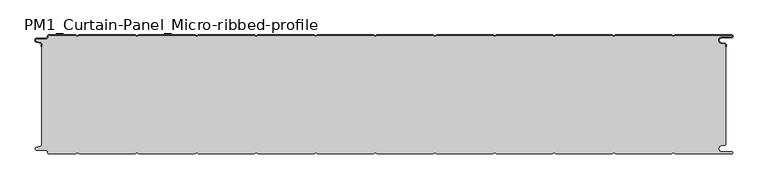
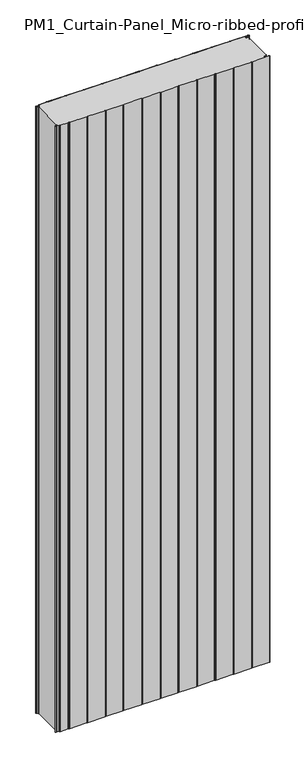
"""IFC4 building model written with IfcOpenShell, lengths in millimetres: plate geometry, PM1_Curtain-Panel_Micro-ribbed-profile : ACH_PM1_Acoustic-Sectioning-Panel_200M."""

from ifc_helpers import new_model, si_unit, point, frame, frame_2d, origin, origin_with_axes, place, context, project, spatial, polyline, circle_curve, trimmed, segment, composite_curve, outline, extrude, source, transform, mapped, element, save
from ifc_brep_helpers import plane_surface, cylinder_surface, revolved_surface, advanced_brep


def pm1_curtain_panel_micro_ribbed_profile_c7bb6b2b(model_context):
    return source(origin(), model_context, "Body", "SolidModel", [
        advanced_brep(
        [(-575.0, -15.878557, 3500.0), (-575.0, -20.0, 3500.0), (-574.2, -20.0, 3500.0), (-574.2, -15.878557, 3500.0), (-576.370137, -13.1503208, 3500.0), (-582.529863, -11.728236, 3500.0), (-581.9, -6.2, 3500.0), (-566.4, -6.2, 3500.0), (-563.6, -3.4, 3500.0), (-563.6, -2.0, 3500.0), (-562.4, -0.8, 3500.0), (-517.3143588, -0.8, 3500.0), (-514.4, -2.482606, 3500.0), (-511.4856412, -0.8, 3500.0), (-417.3143588, -0.8, 3500.0), (-414.4, -2.482606, 3500.0), (-411.4856412, -0.8, 3500.0), (-317.3143588, -0.8, 3500.0), (-314.4, -2.482606, 3500.0), (-311.4856412, -0.8, 3500.0), (-217.3143588, -0.8, 3500.0), (-214.4, -2.482606, 3500.0), (-211.4856412, -0.8, 3500.0), (-117.3143588, -0.8, 3500.0), (-114.4, -2.482606, 3500.0), (-111.4856412, -0.8, 3500.0), (-17.3143588, -0.8, 3500.0), (-14.4, -2.482606, 3500.0), (-11.4856412, -0.8, 3500.0), (82.6856412, -0.8, 3500.0), (85.6, -2.482606, 3500.0), (88.5143588, -0.8, 3500.0), (182.6856412, -0.8, 3500.0), (185.6, -2.482606, 3500.0), (188.5143588, -0.8, 3500.0), (282.6856412, -0.8, 3500.0), (285.6, -2.482606, 3500.0), (288.5143588, -0.8, 3500.0), (382.6856412, -0.8, 3500.0), (385.6, -2.482606, 3500.0), (388.5143588, -0.8, 3500.0), (482.6856412, -0.8, 3500.0), (485.6, -2.482606, 3500.0), (488.5143588, -0.8, 3500.0), (583.1, -0.8, 3500.0), (583.1, -4.2, 3500.0), (566.1, -4.2, 3500.0), (565.2664884, -13.7270771, 3500.0), (571.7125669, -14.8636953, 3500.0), (573.2, -16.6363492, 3500.0), (573.2, -20.0, 3500.0), (574.0, -20.0, 3500.0), (574.0, -16.6363492, 3500.0), (571.8514855, -14.0758491, 3500.0), (565.405407, -12.939231, 3500.0), (566.1, -5.0, 3500.0), (583.1, -5.0, 3500.0), (585.6, -2.5, 3500.0), (583.1, 0.0, 3500.0), (488.2999995, 0.0, 3500.0), (485.6, -1.5588455, 3500.0), (482.9000005, 0.0, 3500.0), (388.2999995, 0.0, 3500.0), (385.6, -1.5588455, 3500.0), (382.9000005, 0.0, 3500.0), (288.2999995, 0.0, 3500.0), (285.6, -1.5588455, 3500.0), (282.9000005, 0.0, 3500.0), (188.2999995, 0.0, 3500.0), (185.6, -1.5588455, 3500.0), (182.9000005, 0.0, 3500.0), (88.2999995, 0.0, 3500.0), (85.6, -1.5588455, 3500.0), (82.9000005, 0.0, 3500.0), (-11.7000005, 0.0, 3500.0), (-14.4, -1.5588455, 3500.0), (-17.0999995, 0.0, 3500.0), (-111.7000005, 0.0, 3500.0), (-114.4, -1.5588455, 3500.0), (-117.0999995, 0.0, 3500.0), (-211.7000005, 0.0, 3500.0), (-214.4, -1.5588455, 3500.0), (-217.0999995, 0.0, 3500.0), (-311.7000005, 0.0, 3500.0), (-314.4, -1.5588455, 3500.0), (-317.0999995, 0.0, 3500.0), (-411.7000005, 0.0, 3500.0), (-414.4, -1.5588455, 3500.0), (-417.0999995, 0.0, 3500.0), (-511.7000005, 0.0, 3500.0), (-514.4, -1.5588455, 3500.0), (-517.0999995, 0.0, 3500.0), (-562.4, 0.0, 3500.0), (-564.4, -2.0, 3500.0), (-564.4, -3.4, 3500.0), (-566.4, -5.4, 3500.0), (-581.9, -5.4, 3500.0), (-582.7098239, -12.5077322, 3500.0), (-576.5500979, -13.929817, 3500.0), (-575.0, -15.878557, 0.0), (-576.5500978, -13.9298169, 0.0), (-582.7098239, -12.507732, 0.0), (-581.9, -5.4, 0.0), (-566.4, -5.4, 0.0), (-564.4, -3.4, 0.0), (-564.4, -2.0, 0.0), (-562.4, 0.0, 0.0), (-517.0999995, 0.0, 0.0), (-514.4, -1.5588455, 0.0), (-511.7000005, 0.0, 0.0), (-417.0999995, 0.0, 0.0), (-414.4, -1.5588455, 0.0), (-411.7000005, 0.0, 0.0), (-317.0999995, 0.0, 0.0), (-314.4, -1.5588455, 0.0), (-311.7000005, 0.0, 0.0), (-217.0999995, 0.0, 0.0), (-214.4, -1.5588455, 0.0), (-211.7000005, 0.0, 0.0), (-117.0999995, 0.0, 0.0), (-114.4, -1.5588455, 0.0), (-111.7000005, 0.0, 0.0), (-17.0999995, 0.0, 0.0), (-14.4, -1.5588455, 0.0), (-11.7000005, 0.0, 0.0), (82.9000005, 0.0, 0.0), (85.6, -1.5588455, 0.0), (88.2999995, 0.0, 0.0), (182.9000005, 0.0, 0.0), (185.6, -1.5588455, 0.0), (188.2999995, 0.0, 0.0), (282.9000005, 0.0, 0.0), (285.6, -1.5588455, 0.0), (288.2999995, 0.0, 0.0), (382.9000005, 0.0, 0.0), (385.6, -1.5588455, 0.0), (388.2999995, 0.0, 0.0), (482.9000005, 0.0, 0.0), (485.6, -1.5588455, 0.0), (488.2999995, 0.0, 0.0), (583.1, 0.0, 0.0), (585.6, -2.5, 0.0), (583.1, -5.0, 0.0), (566.1, -5.0, 0.0), (565.405407, -12.939231, 0.0), (571.8514855, -14.0758491, 0.0), (574.0, -16.6363492, 0.0), (574.0, -20.0, 0.0), (573.2, -20.0, 0.0), (573.2, -16.6363492, 0.0), (571.7125669, -14.8636953, 0.0), (565.2664884, -13.7270772, 0.0), (566.1, -4.2, 0.0), (583.1, -4.2, 0.0), (583.1, -0.8, 0.0), (488.5143588, -0.8, 0.0), (485.6, -2.482606, 0.0), (482.6856412, -0.8, 0.0), (388.5143588, -0.8, 0.0), (385.6, -2.482606, 0.0), (382.6856412, -0.8, 0.0), (288.5143588, -0.8, 0.0), (285.6, -2.482606, 0.0), (282.6856412, -0.8, 0.0), (188.5143588, -0.8, 0.0), (185.6, -2.482606, 0.0), (182.6856412, -0.8, 0.0), (88.5143588, -0.8, 0.0), (85.6, -2.482606, 0.0), (82.6856412, -0.8, 0.0), (-11.4856412, -0.8, 0.0), (-14.4, -2.482606, 0.0), (-17.3143588, -0.8, 0.0), (-111.4856412, -0.8, 0.0), (-114.4, -2.482606, 0.0), (-117.3143588, -0.8, 0.0), (-211.4856412, -0.8, 0.0), (-214.4, -2.482606, 0.0), (-217.3143588, -0.8, 0.0), (-311.4856412, -0.8, 0.0), (-314.4, -2.482606, 0.0), (-317.3143588, -0.8, 0.0), (-411.4856412, -0.8, 0.0), (-414.4, -2.482606, 0.0), (-417.3143588, -0.8, 0.0), (-511.4856412, -0.8, 0.0), (-514.4, -2.482606, 0.0), (-517.3143588, -0.8, 0.0), (-562.4, -0.8, 0.0), (-563.6, -2.0, 0.0), (-563.6, -3.4, 0.0), (-566.4, -6.2, 0.0), (-581.9, -6.2, 0.0), (-582.529863, -11.7282362, 0.0), (-576.370137, -13.150321, 0.0), (-574.2, -15.878557, 0.0), (-574.2, -20.0, 0.0), (-575.0, -20.0, 0.0)],
        [
            (0, 1),
            (1, 2),
            (2, 3),
            (3, 4, circle_curve(frame((-577.0, -15.878557, 3500.0), z_axis=(0.0, 0.0, 1.0), x_axis=(1.0, 0.0, 0.0)), 2.8)),
            (4, 5),
            (5, 6, circle_curve(frame((-581.9, -9.0, 3500.0), z_axis=(0.0, 0.0, -1.0), x_axis=(1.0, 0.0, 0.0)), 2.8)),
            (6, 7),
            (7, 8, circle_curve(frame((-566.4, -3.4, 3500.0), z_axis=(0.0, 0.0, 1.0), x_axis=(1.0, 0.0, 0.0)), 2.8)),
            (8, 9),
            (9, 10, circle_curve(frame((-562.4, -2.0, 3500.0), z_axis=(0.0, 0.0, -1.0), x_axis=(1.0, 0.0, 0.0)), 1.2)),
            (10, 11),
            (11, 12),
            (12, 13),
            (13, 14),
            (14, 15),
            (15, 16),
            (16, 17),
            (17, 18),
            (18, 19),
            (19, 20),
            (20, 21),
            (21, 22),
            (22, 23),
            (23, 24),
            (24, 25),
            (25, 26),
            (26, 27),
            (27, 28),
            (28, 29),
            (29, 30),
            (30, 31),
            (31, 32),
            (32, 33),
            (33, 34),
            (34, 35),
            (35, 36),
            (36, 37),
            (37, 38),
            (38, 39),
            (39, 40),
            (40, 41),
            (41, 42),
            (42, 43),
            (43, 44),
            (44, 45, circle_curve(frame((583.1, -2.5, 3500.0), z_axis=(0.0, 0.0, -1.0), x_axis=(1.0, 0.0, 0.0)), 1.7)),
            (45, 46),
            (46, 47, circle_curve(frame((566.1, -9.0, 3500.0), z_axis=(0.0, 0.0, 1.0), x_axis=(1.0, 0.0, 0.0)), 4.8)),
            (47, 48),
            (48, 49, circle_curve(frame((571.4, -16.6363492, 3500.0), z_axis=(0.0, 0.0, -1.0), x_axis=(1.0, 0.0, 0.0)), 1.8)),
            (49, 50),
            (50, 51),
            (51, 52),
            (52, 53, circle_curve(frame((571.4, -16.6363492, 3500.0), z_axis=(0.0, 0.0, 1.0), x_axis=(1.0, 0.0, 0.0)), 2.6)),
            (53, 54),
            (54, 55, circle_curve(frame((566.1, -9.0, 3500.0), z_axis=(0.0, 0.0, -1.0), x_axis=(1.0, 0.0, 0.0)), 4.0)),
            (55, 56),
            (56, 57, circle_curve(frame((583.1, -2.5, 3500.0), z_axis=(0.0, 0.0, 1.0), x_axis=(1.0, 0.0, 0.0)), 2.5)),
            (57, 58, circle_curve(frame((583.1, -2.5, 3500.0), z_axis=(0.0, 0.0, 1.0), x_axis=(1.0, 0.0, 0.0)), 2.5)),
            (58, 59),
            (59, 60),
            (60, 61),
            (61, 62),
            (62, 63),
            (63, 64),
            (64, 65),
            (65, 66),
            (66, 67),
            (67, 68),
            (68, 69),
            (69, 70),
            (70, 71),
            (71, 72),
            (72, 73),
            (73, 74),
            (74, 75),
            (75, 76),
            (76, 77),
            (77, 78),
            (78, 79),
            (79, 80),
            (80, 81),
            (81, 82),
            (82, 83),
            (83, 84),
            (84, 85),
            (85, 86),
            (86, 87),
            (87, 88),
            (88, 89),
            (89, 90),
            (90, 91),
            (91, 92),
            (92, 93, circle_curve(frame((-562.4, -2.0, 3500.0), z_axis=(0.0, 0.0, 1.0), x_axis=(1.0, 0.0, 0.0)), 2.0)),
            (93, 94),
            (94, 95, circle_curve(frame((-566.4, -3.4, 3500.0), z_axis=(0.0, 0.0, -1.0), x_axis=(1.0, 0.0, 0.0)), 2.0)),
            (95, 96),
            (96, 97, circle_curve(frame((-581.9, -9.0, 3500.0), z_axis=(0.0, 0.0, 1.0), x_axis=(1.0, 0.0, 0.0)), 3.6)),
            (97, 98),
            (98, 0, circle_curve(frame((-577.0, -15.878557, 3500.0), z_axis=(0.0, 0.0, -1.0), x_axis=(1.0, 0.0, 0.0)), 2.0)),
            (99, 100, circle_curve(frame((-577.0, -15.878557, 0.0), z_axis=(0.0, 0.0, 1.0), x_axis=(1.0, 0.0, 0.0)), 2.0)),
            (100, 101),
            (101, 102, circle_curve(frame((-581.9, -9.0, 0.0), z_axis=(0.0, 0.0, -1.0), x_axis=(1.0, 0.0, 0.0)), 3.6)),
            (102, 103),
            (103, 104, circle_curve(frame((-566.4, -3.4, 0.0), z_axis=(0.0, 0.0, 1.0), x_axis=(1.0, 0.0, 0.0)), 2.0)),
            (104, 105),
            (105, 106, circle_curve(frame((-562.4, -2.0, 0.0), z_axis=(0.0, 0.0, -1.0), x_axis=(1.0, 0.0, 0.0)), 2.0)),
            (106, 107),
            (107, 108),
            (108, 109),
            (109, 110),
            (110, 111),
            (111, 112),
            (112, 113),
            (113, 114),
            (114, 115),
            (115, 116),
            (116, 117),
            (117, 118),
            (118, 119),
            (119, 120),
            (120, 121),
            (121, 122),
            (122, 123),
            (123, 124),
            (124, 125),
            (125, 126),
            (126, 127),
            (127, 128),
            (128, 129),
            (129, 130),
            (130, 131),
            (131, 132),
            (132, 133),
            (133, 134),
            (134, 135),
            (135, 136),
            (136, 137),
            (137, 138),
            (138, 139),
            (139, 140),
            (140, 141, circle_curve(frame((583.1, -2.5, 0.0), z_axis=(0.0, 0.0, -1.0), x_axis=(1.0, 0.0, 0.0)), 2.5)),
            (141, 142, circle_curve(frame((583.1, -2.5, 0.0), z_axis=(0.0, 0.0, -1.0), x_axis=(1.0, 0.0, 0.0)), 2.5)),
            (142, 143),
            (143, 144, circle_curve(frame((566.1, -9.0, 0.0), z_axis=(0.0, 0.0, 1.0), x_axis=(1.0, 0.0, 0.0)), 4.0)),
            (144, 145),
            (145, 146, circle_curve(frame((571.4, -16.6363492, 0.0), z_axis=(0.0, 0.0, -1.0), x_axis=(1.0, 0.0, 0.0)), 2.6)),
            (146, 147),
            (147, 148),
            (148, 149),
            (149, 150, circle_curve(frame((571.4, -16.6363492, 0.0), z_axis=(0.0, 0.0, 1.0), x_axis=(1.0, 0.0, 0.0)), 1.8)),
            (150, 151),
            (151, 152, circle_curve(frame((566.1, -9.0, 0.0), z_axis=(0.0, 0.0, -1.0), x_axis=(1.0, 0.0, 0.0)), 4.8)),
            (152, 153),
            (153, 154, circle_curve(frame((583.1, -2.5, 0.0), z_axis=(0.0, 0.0, 1.0), x_axis=(1.0, 0.0, 0.0)), 1.7)),
            (154, 155),
            (155, 156),
            (156, 157),
            (157, 158),
            (158, 159),
            (159, 160),
            (160, 161),
            (161, 162),
            (162, 163),
            (163, 164),
            (164, 165),
            (165, 166),
            (166, 167),
            (167, 168),
            (168, 169),
            (169, 170),
            (170, 171),
            (171, 172),
            (172, 173),
            (173, 174),
            (174, 175),
            (175, 176),
            (176, 177),
            (177, 178),
            (178, 179),
            (179, 180),
            (180, 181),
            (181, 182),
            (182, 183),
            (183, 184),
            (184, 185),
            (185, 186),
            (186, 187),
            (187, 188),
            (188, 189, circle_curve(frame((-562.4, -2.0, 0.0), z_axis=(0.0, 0.0, 1.0), x_axis=(1.0, 0.0, 0.0)), 1.2)),
            (189, 190),
            (190, 191, circle_curve(frame((-566.4, -3.4, 0.0), z_axis=(0.0, 0.0, -1.0), x_axis=(1.0, 0.0, 0.0)), 2.8)),
            (191, 192),
            (192, 193, circle_curve(frame((-581.9, -9.0, 0.0), z_axis=(0.0, 0.0, 1.0), x_axis=(1.0, 0.0, 0.0)), 2.8)),
            (193, 194),
            (194, 195, circle_curve(frame((-577.0, -15.878557, 0.0), z_axis=(0.0, 0.0, -1.0), x_axis=(1.0, 0.0, 0.0)), 2.8)),
            (195, 196),
            (196, 197),
            (197, 99),
            (0, 99),
            (197, 1),
            (196, 2),
            (195, 3),
            (194, 4),
            (193, 5),
            (192, 6),
            (191, 7),
            (190, 8),
            (189, 9),
            (188, 10),
            (187, 11),
            (186, 12),
            (185, 13),
            (184, 14),
            (183, 15),
            (182, 16),
            (181, 17),
            (180, 18),
            (179, 19),
            (178, 20),
            (177, 21),
            (176, 22),
            (175, 23),
            (174, 24),
            (173, 25),
            (172, 26),
            (171, 27),
            (170, 28),
            (169, 29),
            (168, 30),
            (167, 31),
            (166, 32),
            (165, 33),
            (164, 34),
            (163, 35),
            (162, 36),
            (161, 37),
            (160, 38),
            (159, 39),
            (158, 40),
            (157, 41),
            (156, 42),
            (155, 43),
            (154, 44),
            (153, 45),
            (152, 46),
            (151, 47),
            (150, 48),
            (149, 49),
            (148, 50),
            (147, 51),
            (146, 52),
            (145, 53),
            (144, 54),
            (143, 55),
            (142, 56),
            (140, 58),
            (139, 59),
            (138, 60),
            (137, 61),
            (136, 62),
            (135, 63),
            (134, 64),
            (133, 65),
            (132, 66),
            (131, 67),
            (130, 68),
            (129, 69),
            (128, 70),
            (127, 71),
            (126, 72),
            (125, 73),
            (124, 74),
            (123, 75),
            (122, 76),
            (121, 77),
            (120, 78),
            (119, 79),
            (118, 80),
            (117, 81),
            (116, 82),
            (115, 83),
            (114, 84),
            (113, 85),
            (112, 86),
            (111, 87),
            (110, 88),
            (109, 89),
            (108, 90),
            (107, 91),
            (106, 92),
            (105, 93),
            (104, 94),
            (103, 95),
            (102, 96),
            (101, 97),
            (100, 98),
        ],
        [
            plane_surface(frame((-575.0, 0.0, 3500.0), z_axis=(0.0, 0.0, 1.0), x_axis=(0.0, 1.0, 0.0))),
            plane_surface(frame((-575.0, 0.0, 0.0), z_axis=(0.0, 0.0, -1.0), x_axis=(0.0, 1.0, 0.0))),
            plane_surface(frame((-575.0, -15.878557, 3500.0), z_axis=(-1.0, 0.0, 0.0), x_axis=(0.0, 0.0, -1.0))),
            plane_surface(frame((-575.0, -20.0, 3500.0), z_axis=(0.0, -1.0, 0.0), x_axis=(0.0, 0.0, -1.0))),
            plane_surface(frame((-574.2, -20.0, 3500.0), z_axis=(1.0, 0.0, 0.0), x_axis=(0.0, 0.0, -1.0))),
            cylinder_surface(frame((-577.0, -15.878557, 3500.0), z_axis=(0.0, 0.0, 1.0), x_axis=(1.0, 0.0, 0.0)), 2.8),
            plane_surface(frame((-576.370137, -13.150321, 3500.0), z_axis=(0.22495108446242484, 0.9743700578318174, 0.0), x_axis=(0.0, 0.0, -1.0))),
            revolved_surface(polyline([(-579.1, -9.0, 0.0), (-579.1, -9.0, 3500.0)]), (-581.9, -9.0, 3500.0), (0.0, 0.0, -1.0)),
            plane_surface(frame((-581.9, -6.2, 3500.0), z_axis=(0.0, -1.0, 0.0), x_axis=(0.0, 0.0, -1.0))),
            cylinder_surface(frame((-566.4, -3.4, 3500.0), z_axis=(0.0, 0.0, 1.0), x_axis=(1.0, 0.0, 0.0)), 2.8),
            plane_surface(frame((-563.6, -3.4, 3500.0), z_axis=(1.0, 0.0, 0.0), x_axis=(0.0, 0.0, -1.0))),
            revolved_surface(polyline([(-561.1999999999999, -2.0, 0.0), (-561.1999999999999, -2.0, 3500.0)]), (-562.4, -2.0, 3500.0), (0.0, 0.0, -1.0)),
            plane_surface(frame((-562.4, -0.8, 3500.0), z_axis=(0.0, -1.0, 0.0), x_axis=(0.0, 0.0, -1.0))),
            plane_surface(frame((-517.3143588, -0.8, 3500.0), z_axis=(-0.5000000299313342, -0.8660253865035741, 0.0), x_axis=(0.0, 0.0, -1.0))),
            plane_surface(frame((-514.4, -2.482606, 3500.0), z_axis=(0.5000000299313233, -0.8660253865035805, 0.0), x_axis=(0.0, 0.0, -1.0))),
            plane_surface(frame((-511.4856412, -0.8, 3500.0), z_axis=(0.0, -1.0, 0.0), x_axis=(0.0, 0.0, -1.0))),
            plane_surface(frame((-417.3143588, -0.8, 3500.0), z_axis=(-0.5000000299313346, -0.8660253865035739, 0.0), x_axis=(0.0, 0.0, -1.0))),
            plane_surface(frame((-414.4, -2.482606, 3500.0), z_axis=(0.5000000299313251, -0.8660253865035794, 0.0), x_axis=(0.0, 0.0, -1.0))),
            plane_surface(frame((-411.4856412, -0.8, 3500.0), z_axis=(0.0, -1.0, 0.0), x_axis=(0.0, 0.0, -1.0))),
            plane_surface(frame((-317.3143588, -0.8, 3500.0), z_axis=(-0.5000000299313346, -0.866025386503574, 0.0), x_axis=(0.0, 0.0, -1.0))),
            plane_surface(frame((-314.4, -2.482606, 3500.0), z_axis=(0.5000000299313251, -0.8660253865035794, 0.0), x_axis=(0.0, 0.0, -1.0))),
            plane_surface(frame((-311.4856412, -0.8, 3500.0), z_axis=(0.0, -1.0, 0.0), x_axis=(0.0, 0.0, -1.0))),
            plane_surface(frame((-217.3143588, -0.8, 3500.0), z_axis=(-0.5000000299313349, -0.8660253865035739, 0.0), x_axis=(0.0, 0.0, -1.0))),
            plane_surface(frame((-214.4, -2.482606, 3500.0), z_axis=(0.5000000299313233, -0.8660253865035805, 0.0), x_axis=(0.0, 0.0, -1.0))),
            plane_surface(frame((-211.4856412, -0.8, 3500.0), z_axis=(0.0, -1.0, 0.0), x_axis=(0.0, 0.0, -1.0))),
            plane_surface(frame((-117.3143588, -0.8, 3500.0), z_axis=(-0.5000000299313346, -0.866025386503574, 0.0), x_axis=(0.0, 0.0, -1.0))),
            plane_surface(frame((-114.4, -2.482606, 3500.0), z_axis=(0.5000000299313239, -0.8660253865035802, 0.0), x_axis=(0.0, 0.0, -1.0))),
            plane_surface(frame((-111.4856412, -0.8, 3500.0), z_axis=(0.0, -1.0, 0.0), x_axis=(0.0, 0.0, -1.0))),
            plane_surface(frame((-17.3143588, -0.8, 3500.0), z_axis=(-0.5000000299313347, -0.8660253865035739, 0.0), x_axis=(0.0, 0.0, -1.0))),
            plane_surface(frame((-14.4, -2.482606, 3500.0), z_axis=(0.5000000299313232, -0.8660253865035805, 0.0), x_axis=(0.0, 0.0, -1.0))),
            plane_surface(frame((-11.4856412, -0.8, 3500.0), z_axis=(0.0, -1.0, 0.0), x_axis=(0.0, 0.0, -1.0))),
            plane_surface(frame((82.6856412, -0.8, 3500.0), z_axis=(-0.5000000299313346, -0.866025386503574, 0.0), x_axis=(0.0, 0.0, -1.0))),
            plane_surface(frame((85.6, -2.482606, 3500.0), z_axis=(0.5000000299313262, -0.8660253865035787, 0.0), x_axis=(0.0, 0.0, -1.0))),
            plane_surface(frame((88.5143588, -0.8, 3500.0), z_axis=(0.0, -1.0, 0.0), x_axis=(0.0, 0.0, -1.0))),
            plane_surface(frame((182.6856412, -0.8, 3500.0), z_axis=(-0.5000000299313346, -0.8660253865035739, 0.0), x_axis=(0.0, 0.0, -1.0))),
            plane_surface(frame((185.6, -2.482606, 3500.0), z_axis=(0.5000000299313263, -0.8660253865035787, 0.0), x_axis=(0.0, 0.0, -1.0))),
            plane_surface(frame((188.5143588, -0.8, 3500.0), z_axis=(0.0, -1.0, 0.0), x_axis=(0.0, 0.0, -1.0))),
            plane_surface(frame((282.6856412, -0.8, 3500.0), z_axis=(-0.5000000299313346, -0.8660253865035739, 0.0), x_axis=(0.0, 0.0, -1.0))),
            plane_surface(frame((285.6, -2.482606, 3500.0), z_axis=(0.5000000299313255, -0.8660253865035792, 0.0), x_axis=(0.0, 0.0, -1.0))),
            plane_surface(frame((288.5143588, -0.8, 3500.0), z_axis=(0.0, -1.0, 0.0), x_axis=(0.0, 0.0, -1.0))),
            plane_surface(frame((382.6856412, -0.8, 3500.0), z_axis=(-0.5000000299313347, -0.8660253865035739, 0.0), x_axis=(0.0, 0.0, -1.0))),
            plane_surface(frame((385.6, -2.482606, 3500.0), z_axis=(0.5000000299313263, -0.8660253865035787, 0.0), x_axis=(0.0, 0.0, -1.0))),
            plane_surface(frame((388.5143588, -0.8, 3500.0), z_axis=(0.0, -1.0, 0.0), x_axis=(0.0, 0.0, -1.0))),
            plane_surface(frame((482.6856412, -0.8, 3500.0), z_axis=(-0.5000000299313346, -0.866025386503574, 0.0), x_axis=(0.0, 0.0, -1.0))),
            plane_surface(frame((485.6, -2.482606, 3500.0), z_axis=(0.5000000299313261, -0.8660253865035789, 0.0), x_axis=(0.0, 0.0, -1.0))),
            plane_surface(frame((535.6, -0.8, 3500.0), z_axis=(0.0, -1.0, 0.0), x_axis=(0.0, 0.0, -1.0))),
            revolved_surface(polyline([(584.8000000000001, -2.5, 0.0), (584.8000000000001, -2.5, 3500.0)]), (583.1, -2.5, 3500.0), (0.0, 0.0, -1.0)),
            plane_surface(frame((583.1, -4.2, 3500.0), z_axis=(0.0, 1.0, 0.0), x_axis=(0.0, 0.0, -1.0))),
            cylinder_surface(frame((566.1, -9.0, 3500.0), z_axis=(0.0, 0.0, 1.0), x_axis=(1.0, 0.0, 0.0)), 4.8),
            plane_surface(frame((565.2664884, -13.7270772, 3500.0), z_axis=(-0.17364825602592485, -0.9848077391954, 0.0), x_axis=(0.0, 0.0, -1.0))),
            revolved_surface(polyline([(573.1999999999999, -16.6363492, 0.0), (573.1999999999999, -16.6363492, 3500.0)]), (571.4, -16.6363492, 3500.0), (0.0, 0.0, -1.0)),
            plane_surface(frame((573.2, -16.6363492, 3500.0), z_axis=(-1.0, 0.0, 0.0), x_axis=(0.0, 0.0, -1.0))),
            plane_surface(frame((573.2, -20.0, 3500.0), z_axis=(0.0, -1.0, 0.0), x_axis=(0.0, 0.0, -1.0))),
            plane_surface(frame((574.0, -20.0, 3500.0), z_axis=(1.0, 0.0, 0.0), x_axis=(0.0, 0.0, -1.0))),
            cylinder_surface(frame((571.4, -16.6363492, 3500.0), z_axis=(0.0, 0.0, 1.0), x_axis=(1.0, 0.0, 0.0)), 2.6),
            plane_surface(frame((571.8514855, -14.0758491, 3500.0), z_axis=(0.1736482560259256, 0.9848077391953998, 0.0), x_axis=(0.0, 0.0, -1.0))),
            revolved_surface(polyline([(570.1, -9.0, 0.0), (570.1, -9.0, 3500.0)]), (566.1, -9.0, 3500.0), (0.0, 0.0, -1.0)),
            plane_surface(frame((566.1, -5.0, 3500.0), z_axis=(0.0, -1.0, 0.0), x_axis=(0.0, 0.0, -1.0))),
            cylinder_surface(frame((583.1, -2.5, 3500.0), z_axis=(0.0, 0.0, 1.0), x_axis=(1.0, 0.0, 0.0)), 2.5),
            plane_surface(frame((535.6, 0.0, 3500.0), z_axis=(0.0, 1.0, 0.0), x_axis=(0.0, 0.0, -1.0))),
            plane_surface(frame((488.2999995, 0.0, 3500.0), z_axis=(-0.5000000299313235, 0.8660253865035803, 0.0), x_axis=(0.0, 0.0, -1.0))),
            plane_surface(frame((485.6, -1.5588455, 3500.0), z_axis=(0.5000000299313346, 0.8660253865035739, 0.0), x_axis=(0.0, 0.0, -1.0))),
            plane_surface(frame((482.9000005, 0.0, 3500.0), z_axis=(0.0, 1.0, 0.0), x_axis=(0.0, 0.0, -1.0))),
            plane_surface(frame((388.2999995, 0.0, 3500.0), z_axis=(-0.5000000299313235, 0.8660253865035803, 0.0), x_axis=(0.0, 0.0, -1.0))),
            plane_surface(frame((385.6, -1.5588455, 3500.0), z_axis=(0.5000000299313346, 0.8660253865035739, 0.0), x_axis=(0.0, 0.0, -1.0))),
            plane_surface(frame((382.9000005, 0.0, 3500.0), z_axis=(0.0, 1.0, 0.0), x_axis=(0.0, 0.0, -1.0))),
            plane_surface(frame((288.2999995, 0.0, 3500.0), z_axis=(-0.5000000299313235, 0.8660253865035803, 0.0), x_axis=(0.0, 0.0, -1.0))),
            plane_surface(frame((285.6, -1.5588455, 3500.0), z_axis=(0.5000000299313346, 0.8660253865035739, 0.0), x_axis=(0.0, 0.0, -1.0))),
            plane_surface(frame((282.9000005, 0.0, 3500.0), z_axis=(0.0, 1.0, 0.0), x_axis=(0.0, 0.0, -1.0))),
            plane_surface(frame((188.2999995, 0.0, 3500.0), z_axis=(-0.5000000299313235, 0.8660253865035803, 0.0), x_axis=(0.0, 0.0, -1.0))),
            plane_surface(frame((185.6, -1.5588455, 3500.0), z_axis=(0.5000000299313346, 0.8660253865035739, 0.0), x_axis=(0.0, 0.0, -1.0))),
            plane_surface(frame((182.9000005, 0.0, 3500.0), z_axis=(0.0, 1.0, 0.0), x_axis=(0.0, 0.0, -1.0))),
            plane_surface(frame((88.2999995, 0.0, 3500.0), z_axis=(-0.5000000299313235, 0.8660253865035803, 0.0), x_axis=(0.0, 0.0, -1.0))),
            plane_surface(frame((85.6, -1.5588455, 3500.0), z_axis=(0.5000000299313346, 0.8660253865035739, 0.0), x_axis=(0.0, 0.0, -1.0))),
            plane_surface(frame((82.9000005, 0.0, 3500.0), z_axis=(0.0, 1.0, 0.0), x_axis=(0.0, 0.0, -1.0))),
            plane_surface(frame((-11.7000005, 0.0, 3500.0), z_axis=(-0.5000000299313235, 0.8660253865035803, 0.0), x_axis=(0.0, 0.0, -1.0))),
            plane_surface(frame((-14.4, -1.5588455, 3500.0), z_axis=(0.5000000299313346, 0.8660253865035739, 0.0), x_axis=(0.0, 0.0, -1.0))),
            plane_surface(frame((-17.0999995, 0.0, 3500.0), z_axis=(0.0, 1.0, 0.0), x_axis=(0.0, 0.0, -1.0))),
            plane_surface(frame((-111.7000005, 0.0, 3500.0), z_axis=(-0.5000000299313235, 0.8660253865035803, 0.0), x_axis=(0.0, 0.0, -1.0))),
            plane_surface(frame((-114.4, -1.5588455, 3500.0), z_axis=(0.5000000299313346, 0.8660253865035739, 0.0), x_axis=(0.0, 0.0, -1.0))),
            plane_surface(frame((-117.0999995, 0.0, 3500.0), z_axis=(0.0, 1.0, 0.0), x_axis=(0.0, 0.0, -1.0))),
            plane_surface(frame((-211.7000005, 0.0, 3500.0), z_axis=(-0.5000000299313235, 0.8660253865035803, 0.0), x_axis=(0.0, 0.0, -1.0))),
            plane_surface(frame((-214.4, -1.5588455, 3500.0), z_axis=(0.5000000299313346, 0.8660253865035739, 0.0), x_axis=(0.0, 0.0, -1.0))),
            plane_surface(frame((-217.0999995, 0.0, 3500.0), z_axis=(0.0, 1.0, 0.0), x_axis=(0.0, 0.0, -1.0))),
            plane_surface(frame((-311.7000005, 0.0, 3500.0), z_axis=(-0.5000000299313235, 0.8660253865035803, 0.0), x_axis=(0.0, 0.0, -1.0))),
            plane_surface(frame((-314.4, -1.5588455, 3500.0), z_axis=(0.5000000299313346, 0.8660253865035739, 0.0), x_axis=(0.0, 0.0, -1.0))),
            plane_surface(frame((-317.0999995, 0.0, 3500.0), z_axis=(0.0, 1.0, 0.0), x_axis=(0.0, 0.0, -1.0))),
            plane_surface(frame((-411.7000005, 0.0, 3500.0), z_axis=(-0.5000000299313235, 0.8660253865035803, 0.0), x_axis=(0.0, 0.0, -1.0))),
            plane_surface(frame((-414.4, -1.5588455, 3500.0), z_axis=(0.5000000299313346, 0.8660253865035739, 0.0), x_axis=(0.0, 0.0, -1.0))),
            plane_surface(frame((-417.0999995, 0.0, 3500.0), z_axis=(0.0, 1.0, 0.0), x_axis=(0.0, 0.0, -1.0))),
            plane_surface(frame((-511.7000005, 0.0, 3500.0), z_axis=(-0.5000000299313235, 0.8660253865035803, 0.0), x_axis=(0.0, 0.0, -1.0))),
            plane_surface(frame((-514.4, -1.5588455, 3500.0), z_axis=(0.5000000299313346, 0.8660253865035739, 0.0), x_axis=(0.0, 0.0, -1.0))),
            plane_surface(frame((-517.0999995, 0.0, 3500.0), z_axis=(0.0, 1.0, 0.0), x_axis=(0.0, 0.0, -1.0))),
            cylinder_surface(frame((-562.4, -2.0, 3500.0), z_axis=(0.0, 0.0, 1.0), x_axis=(1.0, 0.0, 0.0)), 2.0),
            plane_surface(frame((-564.4, -2.0, 3500.0), z_axis=(-1.0, 0.0, 0.0), x_axis=(0.0, 0.0, -1.0))),
            revolved_surface(polyline([(-564.4, -3.4, 0.0), (-564.4, -3.4, 3500.0)]), (-566.4, -3.4, 3500.0), (0.0, 0.0, -1.0)),
            plane_surface(frame((-566.4, -5.4, 3500.0), z_axis=(0.0, 1.0, 0.0), x_axis=(0.0, 0.0, -1.0))),
            cylinder_surface(frame((-581.9, -9.0, 3500.0), z_axis=(0.0, 0.0, 1.0), x_axis=(1.0, 0.0, 0.0)), 3.6),
            plane_surface(frame((-582.7098239, -12.507732, 3500.0), z_axis=(-0.22495108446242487, -0.9743700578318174, 0.0), x_axis=(0.0, 0.0, -1.0))),
            revolved_surface(polyline([(-575.0, -15.878557, 0.0), (-575.0, -15.878557, 3500.0)]), (-577.0, -15.878557, 3500.0), (0.0, 0.0, -1.0)),
        ],
        [
            (0, [[1, 2, 3, 4, 5, 6, 7, 8, 9, 10, 11, 12, 13, 14, 15, 16, 17, 18, 19, 20, 21, 22, 23, 24, 25, 26, 27, 28, 29, 30, 31, 32, 33, 34, 35, 36, 37, 38, 39, 40, 41, 42, 43, 44, 45, 46, 47, 48, 49, 50, 51, 52, 53, 54, 55, 56, 57, 58, 59, 60, 61, 62, 63, 64, 65, 66, 67, 68, 69, 70, 71, 72, 73, 74, 75, 76, 77, 78, 79, 80, 81, 82, 83, 84, 85, 86, 87, 88, 89, 90, 91, 92, 93, 94, 95, 96, 97, 98, 99]]),
            (1, [[100, 101, 102, 103, 104, 105, 106, 107, 108, 109, 110, 111, 112, 113, 114, 115, 116, 117, 118, 119, 120, 121, 122, 123, 124, 125, 126, 127, 128, 129, 130, 131, 132, 133, 134, 135, 136, 137, 138, 139, 140, 141, 142, 143, 144, 145, 146, 147, 148, 149, 150, 151, 152, 153, 154, 155, 156, 157, 158, 159, 160, 161, 162, 163, 164, 165, 166, 167, 168, 169, 170, 171, 172, 173, 174, 175, 176, 177, 178, 179, 180, 181, 182, 183, 184, 185, 186, 187, 188, 189, 190, 191, 192, 193, 194, 195, 196, 197, 198]]),
            (2, [[-1, 199, -198, 200]]),
            (3, [[-2, -200, -197, 201]]),
            (4, [[-3, -201, -196, 202]]),
            (5, [[-4, -202, -195, 203]]),
            (6, [[-5, -203, -194, 204]]),
            (7, [[-6, -204, -193, 205]]),
            (8, [[-7, -205, -192, 206]]),
            (9, [[-8, -206, -191, 207]]),
            (10, [[-9, -207, -190, 208]]),
            (11, [[-10, -208, -189, 209]]),
            (12, [[-11, -209, -188, 210]]),
            (13, [[-12, -210, -187, 211]]),
            (14, [[-13, -211, -186, 212]]),
            (15, [[-14, -212, -185, 213]]),
            (16, [[-15, -213, -184, 214]]),
            (17, [[-16, -214, -183, 215]]),
            (18, [[-17, -215, -182, 216]]),
            (19, [[-18, -216, -181, 217]]),
            (20, [[-19, -217, -180, 218]]),
            (21, [[-20, -218, -179, 219]]),
            (22, [[-21, -219, -178, 220]]),
            (23, [[-22, -220, -177, 221]]),
            (24, [[-23, -221, -176, 222]]),
            (25, [[-24, -222, -175, 223]]),
            (26, [[-25, -223, -174, 224]]),
            (27, [[-26, -224, -173, 225]]),
            (28, [[-27, -225, -172, 226]]),
            (29, [[-28, -226, -171, 227]]),
            (30, [[-29, -227, -170, 228]]),
            (31, [[-30, -228, -169, 229]]),
            (32, [[-31, -229, -168, 230]]),
            (33, [[-32, -230, -167, 231]]),
            (34, [[-33, -231, -166, 232]]),
            (35, [[-34, -232, -165, 233]]),
            (36, [[-35, -233, -164, 234]]),
            (37, [[-36, -234, -163, 235]]),
            (38, [[-37, -235, -162, 236]]),
            (39, [[-38, -236, -161, 237]]),
            (40, [[-39, -237, -160, 238]]),
            (41, [[-40, -238, -159, 239]]),
            (42, [[-41, -239, -158, 240]]),
            (43, [[-42, -240, -157, 241]]),
            (44, [[-43, -241, -156, 242]]),
            (45, [[-44, -242, -155, 243]]),
            (46, [[-45, -243, -154, 244]]),
            (47, [[-46, -244, -153, 245]]),
            (48, [[-47, -245, -152, 246]]),
            (49, [[-48, -246, -151, 247]]),
            (50, [[-49, -247, -150, 248]]),
            (51, [[-50, -248, -149, 249]]),
            (52, [[-51, -249, -148, 250]]),
            (53, [[-52, -250, -147, 251]]),
            (54, [[-53, -251, -146, 252]]),
            (55, [[-54, -252, -145, 253]]),
            (56, [[-55, -253, -144, 254]]),
            (57, [[-56, -254, -143, 255]]),
            (58, [[-255, -142, -141, 256, -58, -57]]),
            (59, [[-59, -256, -140, 257]]),
            (60, [[-60, -257, -139, 258]]),
            (61, [[-61, -258, -138, 259]]),
            (62, [[-62, -259, -137, 260]]),
            (63, [[-63, -260, -136, 261]]),
            (64, [[-64, -261, -135, 262]]),
            (65, [[-65, -262, -134, 263]]),
            (66, [[-66, -263, -133, 264]]),
            (67, [[-67, -264, -132, 265]]),
            (68, [[-68, -265, -131, 266]]),
            (69, [[-69, -266, -130, 267]]),
            (70, [[-70, -267, -129, 268]]),
            (71, [[-71, -268, -128, 269]]),
            (72, [[-72, -269, -127, 270]]),
            (73, [[-73, -270, -126, 271]]),
            (74, [[-74, -271, -125, 272]]),
            (75, [[-75, -272, -124, 273]]),
            (76, [[-76, -273, -123, 274]]),
            (77, [[-77, -274, -122, 275]]),
            (78, [[-78, -275, -121, 276]]),
            (79, [[-79, -276, -120, 277]]),
            (80, [[-80, -277, -119, 278]]),
            (81, [[-81, -278, -118, 279]]),
            (82, [[-82, -279, -117, 280]]),
            (83, [[-83, -280, -116, 281]]),
            (84, [[-84, -281, -115, 282]]),
            (85, [[-85, -282, -114, 283]]),
            (86, [[-86, -283, -113, 284]]),
            (87, [[-87, -284, -112, 285]]),
            (88, [[-88, -285, -111, 286]]),
            (89, [[-89, -286, -110, 287]]),
            (90, [[-90, -287, -109, 288]]),
            (91, [[-91, -288, -108, 289]]),
            (92, [[-92, -289, -107, 290]]),
            (93, [[-93, -290, -106, 291]]),
            (94, [[-94, -291, -105, 292]]),
            (95, [[-95, -292, -104, 293]]),
            (96, [[-96, -293, -103, 294]]),
            (97, [[-97, -294, -102, 295]]),
            (98, [[-98, -295, -101, 296]]),
            (99, [[-99, -296, -100, -199]]),
        ],
    ),
        extrude(outline(composite_curve([segment(polyline([(-574.2, -184.1214426), (-574.2, -15.8785573)]), True, "CONTINUOUS"), segment(trimmed(circle_curve(frame_2d((-577.0, -15.8785573)), 2.8), [point((-574.2, -15.8785573))], [point((-576.370137, -13.1503212))], True, "CARTESIAN"), True, "CONTINUOUS"), segment(polyline([(-576.370137, -13.1503212), (-582.5298631, -11.7282362)]), True, "CONTINUOUS"), segment(trimmed(circle_curve(frame_2d((-581.9, -9.0)), 2.8), [point((-582.5298631, -11.7282362))], [point((-581.9, -6.2))], False, "CARTESIAN"), True, "CONTINUOUS"), segment(polyline([(-581.9, -6.2), (-566.4000001, -6.2)]), True, "CONTINUOUS"), segment(trimmed(circle_curve(frame_2d((-566.4000001, -3.4)), 2.8), [point((-566.4000001, -6.2))], [point((-563.6000001, -3.4))], True, "CARTESIAN"), True, "CONTINUOUS"), segment(polyline([(-563.6000001, -3.4), (-563.6000001, -2.0)]), True, "CONTINUOUS"), segment(trimmed(circle_curve(frame_2d((-562.4000001, -2.0)), 1.2), [point((-563.6000001, -2.0))], [point((-562.4000001, -0.8))], False, "CARTESIAN"), True, "CONTINUOUS"), segment(polyline([(-562.4000001, -0.8), (-517.3143589, -0.8), (-514.4000001, -2.482606), (-511.4856412, -0.8), (-417.3143589, -0.8), (-414.4000001, -2.482606), (-411.4856412, -0.8), (-317.3143589, -0.8), (-314.4000001, -2.482606), (-311.4856412, -0.8), (-217.3143589, -0.8), (-214.4000001, -2.482606), (-211.4856412, -0.8), (-117.3143589, -0.8), (-114.4000001, -2.482606), (-111.4856412, -0.8), (-17.3143589, -0.8), (-14.4000001, -2.482606), (-11.4856412, -0.8), (82.6856411, -0.8), (85.5999999, -2.482606), (88.5143588, -0.8), (182.6856411, -0.8), (185.5999999, -2.482606), (188.5143588, -0.8), (282.6856411, -0.8), (285.5999999, -2.482606), (288.5143588, -0.8), (382.6856411, -0.8), (385.5999999, -2.482606), (388.5143588, -0.8), (482.6856411, -0.8), (485.6, -2.482606), (488.5143588, -0.8), (583.1, -0.8)]), True, "CONTINUOUS"), segment(trimmed(circle_curve(frame_2d((583.1, -2.5)), 1.7), [point((583.1, -0.8))], [point((583.1, -4.2))], False, "CARTESIAN"), True, "CONTINUOUS"), segment(polyline([(583.1, -4.2), (566.1, -4.2)]), True, "CONTINUOUS"), segment(trimmed(circle_curve(frame_2d((566.1, -9.0)), 4.8), [point((566.1, -4.2))], [point((565.2664883, -13.7270771))], True, "CARTESIAN"), True, "CONTINUOUS"), segment(polyline([(565.2664883, -13.7270771), (571.7125668, -14.8636953)]), True, "CONTINUOUS"), segment(trimmed(circle_curve(frame_2d((571.4, -16.6363492)), 1.8), [point((571.7125668, -14.8636953))], [point((573.2, -16.6363492))], False, "CARTESIAN"), True, "CONTINUOUS"), segment(polyline([(573.2, -16.6363492), (573.2, -183.3636508)]), True, "CONTINUOUS"), segment(trimmed(circle_curve(frame_2d((571.4, -183.3636508)), 1.8), [point((573.2, -183.3636508))], [point((571.7125668, -185.1363047))], False, "CARTESIAN"), True, "CONTINUOUS"), segment(polyline([(571.7125668, -185.1363047), (565.2664883, -186.2729229)]), True, "CONTINUOUS"), segment(trimmed(circle_curve(frame_2d((566.1, -191.0)), 4.8), [point((565.2664883, -186.2729229))], [point((566.1, -195.8))], True, "CARTESIAN"), True, "CONTINUOUS"), segment(polyline([(566.1, -195.8), (583.1, -195.8)]), True, "CONTINUOUS"), segment(trimmed(circle_curve(frame_2d((583.1, -197.5)), 1.7), [point((583.1, -195.8))], [point((583.1, -199.2))], False, "CARTESIAN"), True, "CONTINUOUS"), segment(polyline([(583.1, -199.2), (488.5143588, -199.2), (485.6, -197.517394), (482.6856411, -199.2), (388.5143588, -199.2), (385.5999999, -197.517394), (382.6856411, -199.2), (288.5143588, -199.2), (285.5999999, -197.517394), (282.6856411, -199.2), (188.5143588, -199.2), (185.5999999, -197.517394), (182.6856411, -199.2), (88.5143588, -199.2), (85.5999999, -197.517394), (82.6856411, -199.2), (-11.4856412, -199.2), (-14.4000001, -197.517394), (-17.3143589, -199.2), (-111.4856412, -199.2), (-114.4000001, -197.517394), (-117.3143589, -199.2), (-211.4856412, -199.2), (-214.4000001, -197.517394), (-217.3143589, -199.2), (-311.4856412, -199.2), (-314.4000001, -197.517394), (-317.3143589, -199.2), (-411.4856412, -199.2), (-414.4000001, -197.517394), (-417.3143589, -199.2), (-511.4856412, -199.2), (-514.4000001, -197.517394), (-517.3143589, -199.2), (-562.4000001, -199.2)]), True, "CONTINUOUS"), segment(trimmed(circle_curve(frame_2d((-562.4000001, -198.0)), 1.2), [point((-562.4000001, -199.2))], [point((-563.6000001, -198.0))], False, "CARTESIAN"), True, "CONTINUOUS"), segment(polyline([(-563.6000001, -198.0), (-563.6000001, -196.6)]), True, "CONTINUOUS"), segment(trimmed(circle_curve(frame_2d((-566.4000001, -196.6)), 2.8), [point((-563.6000001, -196.6))], [point((-566.4000001, -193.8))], True, "CARTESIAN"), True, "CONTINUOUS"), segment(polyline([(-566.4000001, -193.8), (-581.9, -193.8)]), True, "CONTINUOUS"), segment(trimmed(circle_curve(frame_2d((-581.9, -191.0)), 2.8), [point((-581.9, -193.8))], [point((-582.5298631, -188.2717638))], False, "CARTESIAN"), True, "CONTINUOUS"), segment(polyline([(-582.5298631, -188.2717638), (-576.370137, -186.8496788)]), True, "CONTINUOUS"), segment(trimmed(circle_curve(frame_2d((-577.0, -184.1214426)), 2.8), [point((-576.370137, -186.8496788))], [point((-574.2, -184.1214426))], True, "CARTESIAN"), True, "CONTINUOUS")], self_intersect=False)), origin_with_axes(), (0.0, 0.0, 1.0), 3500.0),
    ])


if __name__ == "__main__":
    model = new_model("IFC4")
    model_context = context("Model", 3, world=origin())
    ifc_project = project(units=[si_unit("LENGTHUNIT", "METRE", prefix="MILLI")], contexts=[model_context])
    site = spatial("IfcSite", under=ifc_project)
    building = spatial("IfcBuilding", under=site)
    placement = place(None, origin())
    pm1_curtain_panel_micro_ribbed_profile_shape = pm1_curtain_panel_micro_ribbed_profile_c7bb6b2b(model_context)
    element("IfcPlate", 1, ObjectType="PM1_Curtain-Panel_Micro-ribbed-profile : ACH_PM1_Acoustic-Sectioning-Panel_200M", at=placement, inside=building, context=model_context, shape_type="MappedRepresentation", body=[
        mapped(pm1_curtain_panel_micro_ribbed_profile_shape, transform((0.0, 0.0, 0.0), x_axis=(1.0, 0.0, 0.0), y_axis=(0.0, 1.0, 0.0), z_axis=(0.0, 0.0, 1.0))),
    ])
    save(model, "model.ifc")
